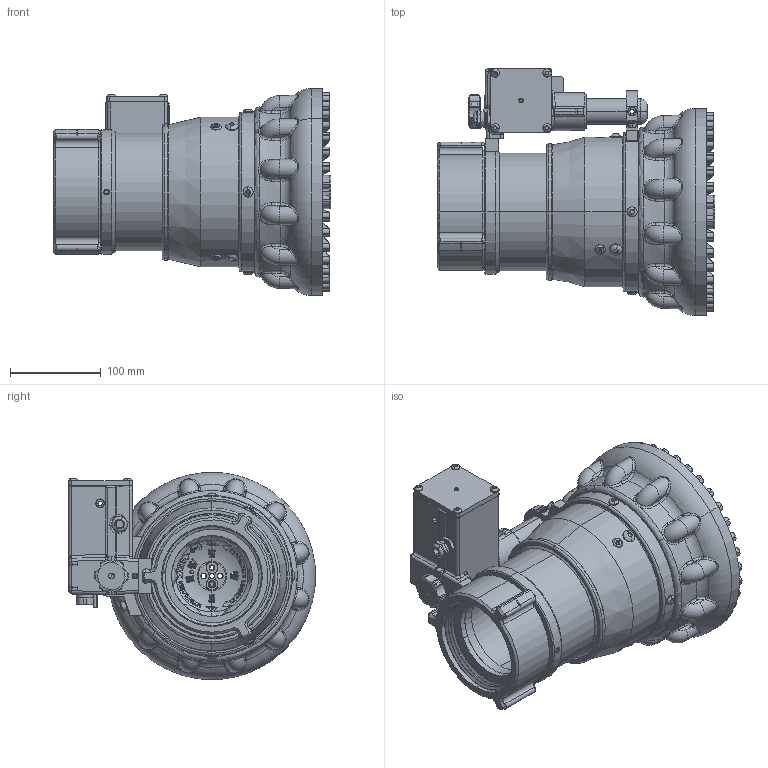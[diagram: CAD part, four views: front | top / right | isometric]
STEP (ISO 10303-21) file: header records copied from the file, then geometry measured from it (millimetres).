
FILE_DESCRIPTION (( 'STEP AP203' ), '1' );
FILE_NAME ('m-er2000-nn.step', '2014-05-13T19:37:20', ( 'user' ), ( '' ), 'SwSTEP 2.0', 'SolidWorks 2012', '' );
FILE_SCHEMA (( 'CONFIG_CONTROL_DESIGN' ));
Length unit declared in the file: inch
Products named in the file (1): m-er2000-nn
Bounding box: 305.34 x 271.32 x 227.43 mm (x, y, z)
Surface area: 485314.1 mm2 (no closed solid volume)
Topology: 0 solids, 148 shells, 1620 faces, 7032 edges, 5450 vertices
Faces by surface type: cylinder 591, plane 442, torus 249, bspline 208, cone 111, sphere 19
Entity records: 100465 total; most frequent: CARTESIAN_POINT 52285, ORIENTED_EDGE 10627, DIRECTION 7059, EDGE_CURVE 7024, VERTEX_POINT 5447, B_SPLINE_CURVE_WITH_KNOTS 3767, AXIS2_PLACEMENT_3D 2711, EDGE_LOOP 1853
